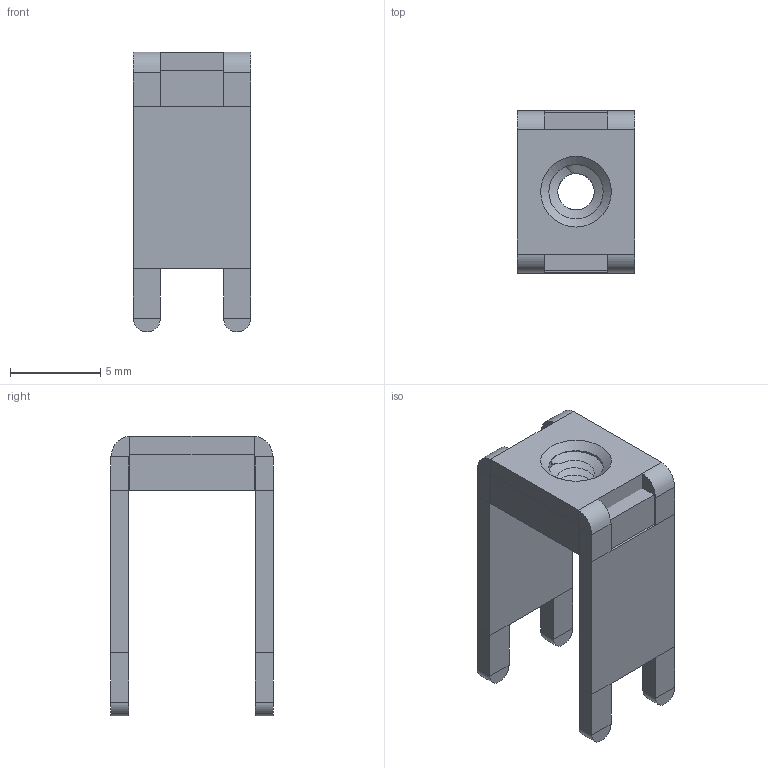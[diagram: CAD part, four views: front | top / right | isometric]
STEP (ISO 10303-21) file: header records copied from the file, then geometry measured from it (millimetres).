
FILE_DESCRIPTION(('FreeCAD Model'),'2;1');
FILE_NAME('Open CASCADE Shape Model','2026-07-27T22:28:31',('FreeCAD'),( 'FreeCAD'),'Open CASCADE STEP processor 7.9','FreeCAD','Unknown');
FILE_SCHEMA(('AUTOMOTIVE_DESIGN { 1 0 10303 214 1 1 1 1 }'));
Length unit declared in the file: millimetre
Products named in the file (1): Open CASCADE STEP translator 7.9 1
Bounding box: 6.5 x 8.99 x 15.49 mm (x, y, z)
Volume: 286.7 mm3; surface area: 759.2 mm2
Topology: 3 solids, 3 shells, 100 faces, 218 edges, 112 vertices
Faces by surface type: plane 72, bspline 24, cone 2, cylinder 2
Full cylindrical faces by diameter (mm): 3.008 x2
Entity records: 3718 total; most frequent: CARTESIAN_POINT 1767, ORIENTED_EDGE 420, DIRECTION 282, EDGE_CURVE 210, VERTEX_POINT 112, FACE_BOUND 104, EDGE_LOOP 104, ADVANCED_FACE 100
